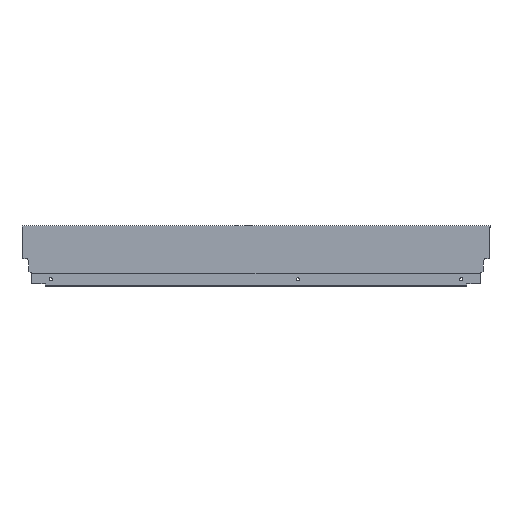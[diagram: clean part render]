
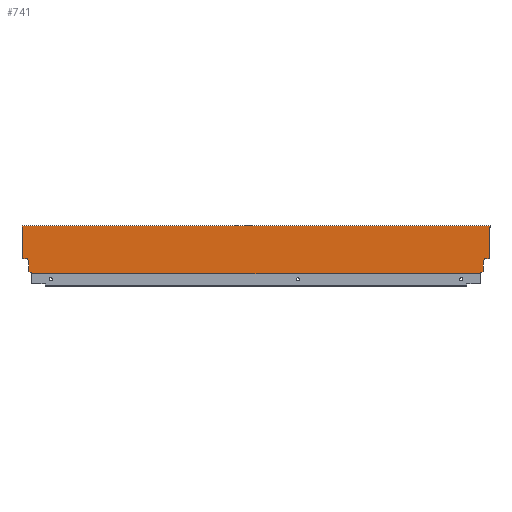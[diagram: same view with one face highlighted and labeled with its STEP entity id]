
A CAD part, top view. The second image highlights one B-rep face of the part: STEP entity #741.
In plain terms, the highlighted planar face has unit normal (0, 0, 1).
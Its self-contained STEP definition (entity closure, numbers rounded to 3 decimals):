
#14 = CARTESIAN_POINT ( 'NONE',  ( -8.9, 2.64, 7.5 ) ) ;
#15 = VERTEX_POINT ( 'NONE', #120 ) ;
#19 = VERTEX_POINT ( 'NONE', #14 ) ;
#20 = VERTEX_POINT ( 'NONE', #122 ) ;
#22 = VERTEX_POINT ( 'NONE', #123 ) ;
#25 = VERTEX_POINT ( 'NONE', #124 ) ;
#26 = VERTEX_POINT ( 'NONE', #125 ) ;
#32 = VERTEX_POINT ( 'NONE', #131 ) ;
#46 = VERTEX_POINT ( 'NONE', #145 ) ;
#48 = VERTEX_POINT ( 'NONE', #147 ) ;
#51 = VERTEX_POINT ( 'NONE', #150 ) ;
#53 = VERTEX_POINT ( 'NONE', #152 ) ;
#62 = VERTEX_POINT ( 'NONE', #161 ) ;
#65 = VERTEX_POINT ( 'NONE', #164 ) ;
#66 = VERTEX_POINT ( 'NONE', #165 ) ;
#68 = VERTEX_POINT ( 'NONE', #167 ) ;
#70 = VERTEX_POINT ( 'NONE', #169 ) ;
#74 = VERTEX_POINT ( 'NONE', #173 ) ;
#78 = VERTEX_POINT ( 'NONE', #177 ) ;
#120 = CARTESIAN_POINT ( 'NONE',  ( -13.004, 0., 7.5 ) ) ;
#122 = CARTESIAN_POINT ( 'NONE',  ( 1., 68., 7.5 ) ) ;
#123 = CARTESIAN_POINT ( 'NONE',  ( -667., 66.5, 7.5 ) ) ;
#124 = CARTESIAN_POINT ( 'NONE',  ( -667., 21.2, 7.5 ) ) ;
#125 = CARTESIAN_POINT ( 'NONE',  ( -658.1, 2.64, 7.5 ) ) ;
#131 = CARTESIAN_POINT ( 'NONE',  ( 0., 66.5, 7.5 ) ) ;
#145 = CARTESIAN_POINT ( 'NONE',  ( -13.004, 1.146, 7.5 ) ) ;
#147 = CARTESIAN_POINT ( 'NONE',  ( 0., 21.2, 7.5 ) ) ;
#150 = CARTESIAN_POINT ( 'NONE',  ( -659.94, 21.2, 7.5 ) ) ;
#152 = CARTESIAN_POINT ( 'NONE',  ( -658.1, 10.765, 7.5 ) ) ;
#161 = CARTESIAN_POINT ( 'NONE',  ( -7.06, 21.2, 7.5 ) ) ;
#164 = CARTESIAN_POINT ( 'NONE',  ( -668., 68., 7.5 ) ) ;
#165 = CARTESIAN_POINT ( 'NONE',  ( -653.996, 0., 7.5 ) ) ;
#167 = CARTESIAN_POINT ( 'NONE',  ( -8.9, 10.765, 7.5 ) ) ;
#169 = CARTESIAN_POINT ( 'NONE',  ( 1., 66.5, 7.5 ) ) ;
#173 = CARTESIAN_POINT ( 'NONE',  ( -653.996, 1.146, 7.5 ) ) ;
#177 = CARTESIAN_POINT ( 'NONE',  ( -668., 66.5, 7.5 ) ) ;
#269 = PLANE ( 'NONE',  #1258 ) ;
#277 = CARTESIAN_POINT ( 'NONE',  ( -667., 0., 7.5 ) ) ;
#283 = DIRECTION ( 'NONE',  ( 0., 0., 1. ) ) ;
#284 = DIRECTION ( 'NONE',  ( 1., 0., 0. ) ) ;
#451 = CARTESIAN_POINT ( 'NONE',  ( 0., 0., 7.5 ) ) ;
#452 = DIRECTION ( 'NONE',  ( 0., -1., 0. ) ) ;
#490 = CARTESIAN_POINT ( 'NONE',  ( -659.94, 21.2, 7.5 ) ) ;
#491 = DIRECTION ( 'NONE',  ( -0.174, 0.985, 0. ) ) ;
#494 = CARTESIAN_POINT ( 'NONE',  ( -668., 66.5, 7.5 ) ) ;
#498 = CARTESIAN_POINT ( 'NONE',  ( -667., 0., 7.5 ) ) ;
#499 = DIRECTION ( 'NONE',  ( 0., 1., 0. ) ) ;
#503 = CARTESIAN_POINT ( 'NONE',  ( -667., 0., 7.5 ) ) ;
#504 = DIRECTION ( 'NONE',  ( 0., -1., 0. ) ) ;
#505 = CARTESIAN_POINT ( 'NONE',  ( -672., 21.2, 7.5 ) ) ;
#506 = DIRECTION ( 'NONE',  ( 1., 0., 0. ) ) ;
#507 = CARTESIAN_POINT ( 'NONE',  ( -658.1, 2.64, 7.5 ) ) ;
#508 = DIRECTION ( 'NONE',  ( -0.94, 0.342, 0. ) ) ;
#509 = CARTESIAN_POINT ( 'NONE',  ( -668., 66.5, 7.5 ) ) ;
#510 = DIRECTION ( 'NONE',  ( 1., 0., 0. ) ) ;
#511 = CARTESIAN_POINT ( 'NONE',  ( -8.9, 10.765, 7.5 ) ) ;
#512 = DIRECTION ( 'NONE',  ( 0., -1., 0. ) ) ;
#513 = CARTESIAN_POINT ( 'NONE',  ( -667., 68., 7.5 ) ) ;
#514 = DIRECTION ( 'NONE',  ( -1., 0., 0. ) ) ;
#515 = CARTESIAN_POINT ( 'NONE',  ( -7.06, 21.2, 7.5 ) ) ;
#516 = DIRECTION ( 'NONE',  ( -0.174, -0.985, 0. ) ) ;
#517 = CARTESIAN_POINT ( 'NONE',  ( 0., 21.2, 7.5 ) ) ;
#518 = DIRECTION ( 'NONE',  ( 1., 0., 0. ) ) ;
#519 = CARTESIAN_POINT ( 'NONE',  ( -658.1, 10.765, 7.5 ) ) ;
#520 = DIRECTION ( 'NONE',  ( -1., 0., 0. ) ) ;
#521 = CARTESIAN_POINT ( 'NONE',  ( -13.004, 1.146, 7.5 ) ) ;
#522 = DIRECTION ( 'NONE',  ( 0., 1., 0. ) ) ;
#523 = CARTESIAN_POINT ( 'NONE',  ( 1., 66.5, 7.5 ) ) ;
#524 = DIRECTION ( 'NONE',  ( -1., 0., 0. ) ) ;
#525 = CARTESIAN_POINT ( 'NONE',  ( -653.996, 1.146, 7.5 ) ) ;
#526 = DIRECTION ( 'NONE',  ( 0., 1., 0. ) ) ;
#527 = CARTESIAN_POINT ( 'NONE',  ( 1., 68., 7.5 ) ) ;
#528 = DIRECTION ( 'NONE',  ( 0., -1., 0. ) ) ;
#530 = DIRECTION ( 'NONE',  ( 0., -1., 0. ) ) ;
#533 = CARTESIAN_POINT ( 'NONE',  ( -8.9, 2.64, 7.5 ) ) ;
#534 = DIRECTION ( 'NONE',  ( -0.94, -0.342, 0. ) ) ;
#741 = ADVANCED_FACE ( 'NONE', ( #982 ), #269, .T. ) ;
#798 = EDGE_CURVE ( 'NONE', #32, #48, #1058, .T. ) ;
#816 = EDGE_CURVE ( 'NONE', #53, #51, #1089, .T. ) ;
#820 = EDGE_CURVE ( 'NONE', #78, #65, #1090, .T. ) ;
#822 = EDGE_CURVE ( 'NONE', #22, #25, #1102, .T. ) ;
#823 = EDGE_CURVE ( 'NONE', #66, #15, #1105, .T. ) ;
#824 = EDGE_CURVE ( 'NONE', #74, #26, #1109, .T. ) ;
#825 = EDGE_CURVE ( 'NONE', #78, #22, #1111, .T. ) ;
#826 = EDGE_CURVE ( 'NONE', #68, #19, #1113, .T. ) ;
#827 = EDGE_CURVE ( 'NONE', #51, #25, #1104, .T. ) ;
#828 = EDGE_CURVE ( 'NONE', #62, #68, #1117, .T. ) ;
#829 = EDGE_CURVE ( 'NONE', #65, #20, #1103, .T. ) ;
#830 = EDGE_CURVE ( 'NONE', #48, #62, #1108, .T. ) ;
#831 = EDGE_CURVE ( 'NONE', #26, #53, #1116, .T. ) ;
#832 = EDGE_CURVE ( 'NONE', #70, #32, #1125, .T. ) ;
#833 = EDGE_CURVE ( 'NONE', #66, #74, #1127, .T. ) ;
#834 = EDGE_CURVE ( 'NONE', #20, #70, #1129, .T. ) ;
#835 = EDGE_CURVE ( 'NONE', #46, #15, #1120, .T. ) ;
#837 = EDGE_CURVE ( 'NONE', #19, #46, #1135, .T. ) ;
#922 = EDGE_LOOP ( 'NONE', ( #1436, #1437, #1438, #1439, #1440, #1441, #1442, #1443, #1444, #1445, #1446, #1447, #1448, #1449, #1450, #1451, #1452, #1453 ) ) ;
#982 = FACE_OUTER_BOUND ( 'NONE', #922, .T. ) ;
#1057 = VECTOR ( 'NONE', #452, 1000. ) ;
#1058 = LINE ( 'NONE', #451, #1057 ) ;
#1089 = LINE ( 'NONE', #490, #1091 ) ;
#1090 = LINE ( 'NONE', #494, #1101 ) ;
#1091 = VECTOR ( 'NONE', #491, 1000. ) ;
#1098 = VECTOR ( 'NONE', #504, 1000. ) ;
#1101 = VECTOR ( 'NONE', #499, 1000. ) ;
#1102 = LINE ( 'NONE', #503, #1098 ) ;
#1103 = LINE ( 'NONE', #513, #1119 ) ;
#1104 = LINE ( 'NONE', #505, #1115 ) ;
#1105 = LINE ( 'NONE', #498, #1107 ) ;
#1107 = VECTOR ( 'NONE', #506, 1000. ) ;
#1108 = LINE ( 'NONE', #517, #1121 ) ;
#1109 = LINE ( 'NONE', #507, #1110 ) ;
#1110 = VECTOR ( 'NONE', #508, 1000. ) ;
#1111 = LINE ( 'NONE', #509, #1112 ) ;
#1112 = VECTOR ( 'NONE', #510, 1000. ) ;
#1113 = LINE ( 'NONE', #511, #1114 ) ;
#1114 = VECTOR ( 'NONE', #512, 1000. ) ;
#1115 = VECTOR ( 'NONE', #514, 1000. ) ;
#1116 = LINE ( 'NONE', #519, #1123 ) ;
#1117 = LINE ( 'NONE', #515, #1118 ) ;
#1118 = VECTOR ( 'NONE', #516, 1000. ) ;
#1119 = VECTOR ( 'NONE', #518, 1000. ) ;
#1120 = LINE ( 'NONE', #521, #1131 ) ;
#1121 = VECTOR ( 'NONE', #520, 1000. ) ;
#1123 = VECTOR ( 'NONE', #522, 1000. ) ;
#1125 = LINE ( 'NONE', #523, #1126 ) ;
#1126 = VECTOR ( 'NONE', #524, 1000. ) ;
#1127 = LINE ( 'NONE', #525, #1128 ) ;
#1128 = VECTOR ( 'NONE', #526, 1000. ) ;
#1129 = LINE ( 'NONE', #527, #1130 ) ;
#1130 = VECTOR ( 'NONE', #528, 1000. ) ;
#1131 = VECTOR ( 'NONE', #530, 1000. ) ;
#1135 = LINE ( 'NONE', #533, #1136 ) ;
#1136 = VECTOR ( 'NONE', #534, 1000. ) ;
#1258 = AXIS2_PLACEMENT_3D ( 'NONE', #277, #283, #284 ) ;
#1436 = ORIENTED_EDGE ( 'NONE', *, *, #829, .F. ) ;
#1437 = ORIENTED_EDGE ( 'NONE', *, *, #820, .F. ) ;
#1438 = ORIENTED_EDGE ( 'NONE', *, *, #825, .T. ) ;
#1439 = ORIENTED_EDGE ( 'NONE', *, *, #822, .T. ) ;
#1440 = ORIENTED_EDGE ( 'NONE', *, *, #827, .F. ) ;
#1441 = ORIENTED_EDGE ( 'NONE', *, *, #816, .F. ) ;
#1442 = ORIENTED_EDGE ( 'NONE', *, *, #831, .F. ) ;
#1443 = ORIENTED_EDGE ( 'NONE', *, *, #824, .F. ) ;
#1444 = ORIENTED_EDGE ( 'NONE', *, *, #833, .F. ) ;
#1445 = ORIENTED_EDGE ( 'NONE', *, *, #823, .T. ) ;
#1446 = ORIENTED_EDGE ( 'NONE', *, *, #835, .F. ) ;
#1447 = ORIENTED_EDGE ( 'NONE', *, *, #837, .F. ) ;
#1448 = ORIENTED_EDGE ( 'NONE', *, *, #826, .F. ) ;
#1449 = ORIENTED_EDGE ( 'NONE', *, *, #828, .F. ) ;
#1450 = ORIENTED_EDGE ( 'NONE', *, *, #830, .F. ) ;
#1451 = ORIENTED_EDGE ( 'NONE', *, *, #798, .F. ) ;
#1452 = ORIENTED_EDGE ( 'NONE', *, *, #832, .F. ) ;
#1453 = ORIENTED_EDGE ( 'NONE', *, *, #834, .F. ) ;
